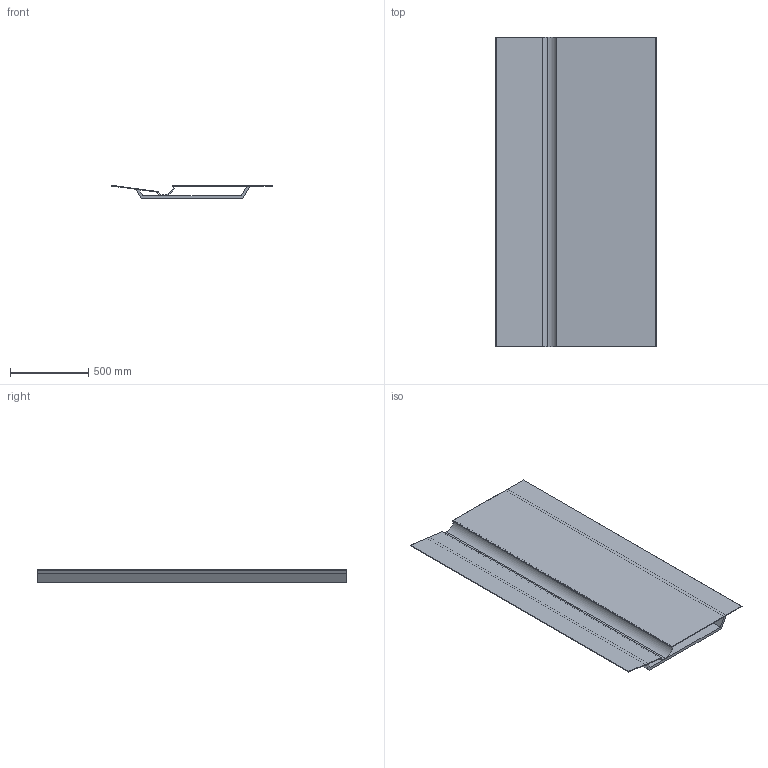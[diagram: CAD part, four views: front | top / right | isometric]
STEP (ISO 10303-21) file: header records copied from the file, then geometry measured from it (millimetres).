
FILE_DESCRIPTION (( 'STEP AP203' ), '1' );
FILE_NAME ('LET01-01-SPECCHIO LET 102,5x198.STEP', '2024-10-28T14:20:07', ( '' ), ( '' ), 'SwSTEP 2.0', 'SolidWorks 2022', '' );
FILE_SCHEMA (( 'CONFIG_CONTROL_DESIGN' ));
Length unit declared in the file: millimetre
Products named in the file (1): LET01-01-SPECCHIO LET 102,5x198
Bounding box: 1025 x 1980 x 84 mm (x, y, z)
Volume: 36632274.5 mm3; surface area: 7557690.5 mm2
Topology: 4 solids, 4 shells, 39 faces, 85 edges, 54 vertices
Faces by surface type: plane 26, cylinder 13
Entity records: 1114 total; most frequent: CARTESIAN_POINT 209, ORIENTED_EDGE 170, DIRECTION 163, EDGE_CURVE 85, VECTOR 67, LINE 67, VERTEX_POINT 54, AXIS2_PLACEMENT_3D 48
